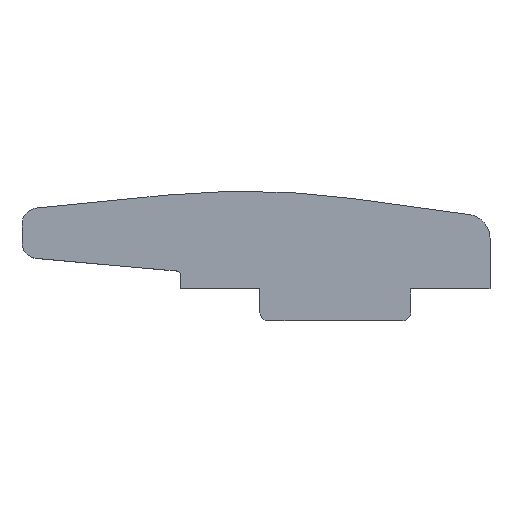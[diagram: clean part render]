
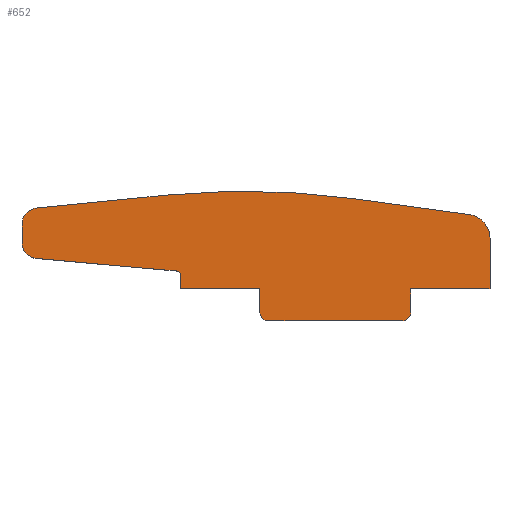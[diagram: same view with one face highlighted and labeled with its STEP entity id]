
A CAD part, top view. The second image highlights one B-rep face of the part: STEP entity #652.
In plain terms, the highlighted planar face has unit normal (0, 0, 1).
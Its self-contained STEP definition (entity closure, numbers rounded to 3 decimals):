
#164=CARTESIAN_POINT('',(-10.5,1.743,2.5));
#165=DIRECTION('',(0.,0.,-1.));
#166=DIRECTION('',(0.09,0.996,0.));
#167=AXIS2_PLACEMENT_3D('',#164,#165,#166);
#185=CARTESIAN_POINT('',(-28.,8.19,2.5));
#186=DIRECTION('',(0.,0.,1.));
#187=DIRECTION('',(-0.1,0.995,0.));
#188=AXIS2_PLACEMENT_3D('',#185,#186,#187);
#190=DIRECTION('',(-0.995,-0.1,0.));
#191=VECTOR('',#190,16.447);
#192=CARTESIAN_POINT('',(-11.833,11.817,2.5));
#193=LINE('',#192,#191);
#194=CARTESIAN_POINT('',(-1.883,-87.687,2.5));
#195=DIRECTION('',(0.,0.,1.));
#196=DIRECTION('',(0.137,0.991,0.));
#197=AXIS2_PLACEMENT_3D('',#194,#195,#196);
#199=DIRECTION('',(-0.991,0.137,0.));
#200=VECTOR('',#199,14.768);
#201=CARTESIAN_POINT('',(26.41,9.357,2.5));
#202=LINE('',#201,#200);
#203=CARTESIAN_POINT('',(26.,6.385,2.5));
#204=DIRECTION('',(0.,0.,1.));
#205=DIRECTION('',(1.,0.,0.));
#206=AXIS2_PLACEMENT_3D('',#203,#204,#205);
#208=DIRECTION('',(0.,1.,0.));
#209=VECTOR('',#208,6.385);
#210=CARTESIAN_POINT('',(29.,0.,2.5));
#211=LINE('',#210,#209);
#212=DIRECTION('',(1.,0.,0.));
#213=VECTOR('',#212,10.);
#214=CARTESIAN_POINT('',(19.,0.,2.5));
#215=LINE('',#214,#213);
#216=DIRECTION('',(0.,1.,0.));
#217=VECTOR('',#216,3.);
#218=CARTESIAN_POINT('',(19.,-3.,2.5));
#219=LINE('',#218,#217);
#220=CARTESIAN_POINT('',(18.,-3.,2.5));
#221=DIRECTION('',(0.,0.,1.));
#222=DIRECTION('',(0.,-1.,0.));
#223=AXIS2_PLACEMENT_3D('',#220,#221,#222);
#225=DIRECTION('',(1.,0.,0.));
#226=VECTOR('',#225,17.);
#227=CARTESIAN_POINT('',(1.,-4.,2.5));
#228=LINE('',#227,#226);
#229=CARTESIAN_POINT('',(1.,-3.,2.5));
#230=DIRECTION('',(0.,0.,1.));
#231=DIRECTION('',(-1.,0.,0.));
#232=AXIS2_PLACEMENT_3D('',#229,#230,#231);
#234=DIRECTION('',(0.,-1.,0.));
#235=VECTOR('',#234,3.);
#236=CARTESIAN_POINT('',(0.,0.,2.5));
#237=LINE('',#236,#235);
#238=DIRECTION('',(1.,0.,0.));
#239=VECTOR('',#238,10.);
#240=CARTESIAN_POINT('',(-10.,0.,2.5));
#241=LINE('',#240,#239);
#242=DIRECTION('',(0.,-1.,0.));
#243=VECTOR('',#242,1.743);
#244=CARTESIAN_POINT('',(-10.,1.743,2.5));
#245=LINE('',#244,#243);
#246=DIRECTION('',(0.996,-0.09,0.));
#247=VECTOR('',#246,17.796);
#248=CARTESIAN_POINT('',(-28.179,3.836,2.5));
#249=LINE('',#248,#247);
#250=CARTESIAN_POINT('',(-28.,5.828,2.5));
#251=DIRECTION('',(0.,0.,1.));
#252=DIRECTION('',(-1.,0.,0.));
#253=AXIS2_PLACEMENT_3D('',#250,#251,#252);
#255=DIRECTION('',(0.,-1.,0.));
#256=VECTOR('',#255,2.362);
#257=CARTESIAN_POINT('',(-30.,8.19,2.5));
#258=LINE('',#257,#256);
#267=CARTESIAN_POINT('',(19.,0.,2.5));
#268=CARTESIAN_POINT('',(29.,0.,2.5));
#269=VERTEX_POINT('',#267);
#270=VERTEX_POINT('',#268);
#271=CARTESIAN_POINT('',(-10.,0.,2.5));
#272=CARTESIAN_POINT('',(0.,0.,2.5));
#273=VERTEX_POINT('',#271);
#274=VERTEX_POINT('',#272);
#276=CARTESIAN_POINT('',(-10.,1.743,2.5));
#278=VERTEX_POINT('',#276);
#280=CARTESIAN_POINT('',(-10.455,2.241,2.5));
#282=VERTEX_POINT('',#280);
#287=CARTESIAN_POINT('',(-28.199,10.18,2.5));
#288=VERTEX_POINT('',#287);
#289=CARTESIAN_POINT('',(-30.,8.19,2.5));
#290=VERTEX_POINT('',#289);
#295=CARTESIAN_POINT('',(29.,6.385,2.5));
#296=VERTEX_POINT('',#295);
#297=CARTESIAN_POINT('',(26.41,9.357,2.5));
#298=VERTEX_POINT('',#297);
#303=CARTESIAN_POINT('',(0.,-3.,2.5));
#304=VERTEX_POINT('',#303);
#305=CARTESIAN_POINT('',(1.,-4.,2.5));
#306=VERTEX_POINT('',#305);
#311=CARTESIAN_POINT('',(18.,-4.,2.5));
#312=VERTEX_POINT('',#311);
#313=CARTESIAN_POINT('',(19.,-3.,2.5));
#314=VERTEX_POINT('',#313);
#319=CARTESIAN_POINT('',(-30.,5.828,2.5));
#320=VERTEX_POINT('',#319);
#321=CARTESIAN_POINT('',(-28.179,3.836,2.5));
#322=VERTEX_POINT('',#321);
#327=CARTESIAN_POINT('',(11.781,11.375,2.5));
#328=VERTEX_POINT('',#327);
#329=CARTESIAN_POINT('',(-11.833,11.817,2.5));
#330=VERTEX_POINT('',#329);
#627=CARTESIAN_POINT('',(0.,0.,2.5));
#628=DIRECTION('',(0.,0.,1.));
#629=DIRECTION('',(1.,0.,0.));
#630=AXIS2_PLACEMENT_3D('',#627,#628,#629);
#631=PLANE('',#630);
#632=ORIENTED_EDGE('',*,*,#383,.F.);
#633=ORIENTED_EDGE('',*,*,#399,.F.);
#634=ORIENTED_EDGE('',*,*,#412,.F.);
#635=ORIENTED_EDGE('',*,*,#425,.F.);
#636=ORIENTED_EDGE('',*,*,#440,.F.);
#637=ORIENTED_EDGE('',*,*,#455,.F.);
#638=ORIENTED_EDGE('',*,*,#468,.F.);
#639=ORIENTED_EDGE('',*,*,#481,.F.);
#640=ORIENTED_EDGE('',*,*,#496,.F.);
#641=ORIENTED_EDGE('',*,*,#509,.F.);
#642=ORIENTED_EDGE('',*,*,#524,.F.);
#643=ORIENTED_EDGE('',*,*,#539,.F.);
#644=ORIENTED_EDGE('',*,*,#552,.F.);
#645=ORIENTED_EDGE('',*,*,#565,.F.);
#646=ORIENTED_EDGE('',*,*,#581,.F.);
#647=ORIENTED_EDGE('',*,*,#593,.F.);
#648=ORIENTED_EDGE('',*,*,#608,.F.);
#649=ORIENTED_EDGE('',*,*,#620,.F.);
#650=EDGE_LOOP('',(#632,#633,#634,#635,#636,#637,#638,#639,#640,#641,#642,#643,
#644,#645,#646,#647,#648,#649));
#651=FACE_OUTER_BOUND('',#650,.F.);
#168=CIRCLE('',#167,0.5);
#189=CIRCLE('',#188,2.);
#198=CIRCLE('',#197,100.);
#207=CIRCLE('',#206,3.);
#224=CIRCLE('',#223,1.);
#233=CIRCLE('',#232,1.);
#254=CIRCLE('',#253,2.);
#383=EDGE_CURVE('',#288,#290,#189,.T.);
#399=EDGE_CURVE('',#330,#288,#193,.T.);
#412=EDGE_CURVE('',#328,#330,#198,.T.);
#425=EDGE_CURVE('',#298,#328,#202,.T.);
#440=EDGE_CURVE('',#296,#298,#207,.T.);
#455=EDGE_CURVE('',#270,#296,#211,.T.);
#468=EDGE_CURVE('',#269,#270,#215,.T.);
#481=EDGE_CURVE('',#314,#269,#219,.T.);
#496=EDGE_CURVE('',#312,#314,#224,.T.);
#509=EDGE_CURVE('',#306,#312,#228,.T.);
#524=EDGE_CURVE('',#304,#306,#233,.T.);
#539=EDGE_CURVE('',#274,#304,#237,.T.);
#552=EDGE_CURVE('',#273,#274,#241,.T.);
#565=EDGE_CURVE('',#278,#273,#245,.T.);
#581=EDGE_CURVE('',#282,#278,#168,.T.);
#593=EDGE_CURVE('',#322,#282,#249,.T.);
#608=EDGE_CURVE('',#320,#322,#254,.T.);
#620=EDGE_CURVE('',#290,#320,#258,.T.);
#652=ADVANCED_FACE('',(#651),#631,.T.);
